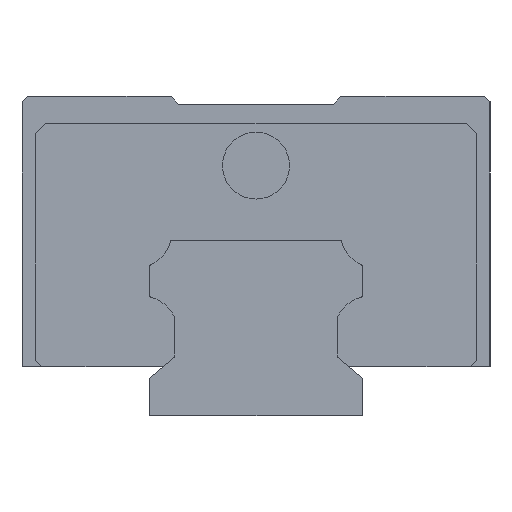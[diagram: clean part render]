
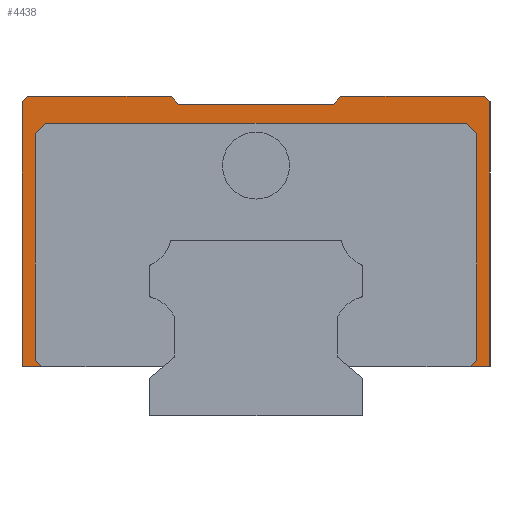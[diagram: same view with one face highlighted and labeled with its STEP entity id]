
A CAD part, left-side view. The second image highlights one B-rep face of the part: STEP entity #4438.
In plain terms, the highlighted planar face has unit normal (-1, 0, 0).
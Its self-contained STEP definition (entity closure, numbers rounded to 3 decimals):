
#20 = DIRECTION ( 'NONE',  ( 0., -1., 0. ) ) ;
#59 = CARTESIAN_POINT ( 'NONE',  ( -39., -20.75, 26.5 ) ) ;
#142 = ORIENTED_EDGE ( 'NONE', *, *, #423, .T. ) ;
#148 = VERTEX_POINT ( 'NONE', #5497 ) ;
#149 = EDGE_CURVE ( 'NONE', #3315, #2893, #5124, .T. ) ;
#164 = EDGE_CURVE ( 'NONE', #2859, #5265, #3223, .T. ) ;
#223 = ORIENTED_EDGE ( 'NONE', *, *, #164, .T. ) ;
#273 = CARTESIAN_POINT ( 'NONE',  ( -39., -20.75, 26.5 ) ) ;
#305 = EDGE_CURVE ( 'NONE', #2719, #5523, #4291, .T. ) ;
#315 = CARTESIAN_POINT ( 'NONE',  ( -39., 22., 29.5 ) ) ;
#323 = LINE ( 'NONE', #2189, #1444 ) ;
#368 = FACE_OUTER_BOUND ( 'NONE', #5209, .T. ) ;
#370 = VECTOR ( 'NONE', #2509, 1000. ) ;
#375 = LINE ( 'NONE', #1814, #4354 ) ;
#423 = EDGE_CURVE ( 'NONE', #5265, #4434, #4975, .T. ) ;
#443 = VERTEX_POINT ( 'NONE', #315 ) ;
#505 = EDGE_CURVE ( 'NONE', #5994, #3327, #3471, .T. ) ;
#568 = CARTESIAN_POINT ( 'NONE',  ( -39., 20.15, 4.6 ) ) ;
#645 = DIRECTION ( 'NONE',  ( 0., 0.707, -0.707 ) ) ;
#750 = LINE ( 'NONE', #5388, #3180 ) ;
#843 = DIRECTION ( 'NONE',  ( 0., 0., -1. ) ) ;
#864 = VERTEX_POINT ( 'NONE', #5772 ) ;
#946 = CARTESIAN_POINT ( 'NONE',  ( -39., 19.75, 27.5 ) ) ;
#996 = DIRECTION ( 'NONE',  ( 0., 1., 0. ) ) ;
#1004 = LINE ( 'NONE', #4282, #2162 ) ;
#1029 = VERTEX_POINT ( 'NONE', #59 ) ;
#1082 = CARTESIAN_POINT ( 'NONE',  ( -39., 20.75, 26.5 ) ) ;
#1163 = EDGE_CURVE ( 'NONE', #1029, #3984, #3556, .T. ) ;
#1301 = CARTESIAN_POINT ( 'NONE',  ( -39., -22., 30. ) ) ;
#1337 = EDGE_CURVE ( 'NONE', #148, #4434, #4237, .T. ) ;
#1361 = VECTOR ( 'NONE', #3900, 1000. ) ;
#1423 = VECTOR ( 'NONE', #5891, 1000. ) ;
#1434 = CARTESIAN_POINT ( 'NONE',  ( -39., 9., 4.6 ) ) ;
#1444 = VECTOR ( 'NONE', #5930, 1000. ) ;
#1448 = CARTESIAN_POINT ( 'NONE',  ( -39., 22., 30. ) ) ;
#1469 = ORIENTED_EDGE ( 'NONE', *, *, #149, .T. ) ;
#1491 = DIRECTION ( 'NONE',  ( 0., 1., 0. ) ) ;
#1516 = ORIENTED_EDGE ( 'NONE', *, *, #3728, .T. ) ;
#1517 = CARTESIAN_POINT ( 'NONE',  ( -39., -20.75, 5.2 ) ) ;
#1569 = EDGE_CURVE ( 'NONE', #3984, #2928, #323, .T. ) ;
#1738 = CARTESIAN_POINT ( 'NONE',  ( -39., -20.15, 4.6 ) ) ;
#1767 = EDGE_CURVE ( 'NONE', #148, #443, #4850, .T. ) ;
#1814 = CARTESIAN_POINT ( 'NONE',  ( -39., -7.963, 30. ) ) ;
#1854 = CARTESIAN_POINT ( 'NONE',  ( -39., 19.75, 27.5 ) ) ;
#1867 = DIRECTION ( 'NONE',  ( 0., 1., 0. ) ) ;
#1892 = CARTESIAN_POINT ( 'NONE',  ( -39., -19.75, 27.5 ) ) ;
#1970 = LINE ( 'NONE', #1448, #5979 ) ;
#2084 = ORIENTED_EDGE ( 'NONE', *, *, #5240, .F. ) ;
#2103 = CARTESIAN_POINT ( 'NONE',  ( -39., 22., 4.6 ) ) ;
#2126 = VECTOR ( 'NONE', #1867, 1000. ) ;
#2162 = VECTOR ( 'NONE', #6052, 1000. ) ;
#2183 = PLANE ( 'NONE',  #4017 ) ;
#2189 = CARTESIAN_POINT ( 'NONE',  ( -39., -20.75, 5.2 ) ) ;
#2235 = CARTESIAN_POINT ( 'NONE',  ( -39., -22., 30. ) ) ;
#2240 = DIRECTION ( 'NONE',  ( 0., 0.643, -0.766 ) ) ;
#2250 = EDGE_CURVE ( 'NONE', #5523, #443, #3030, .T. ) ;
#2274 = ORIENTED_EDGE ( 'NONE', *, *, #1767, .T. ) ;
#2280 = CARTESIAN_POINT ( 'NONE',  ( -39., -21.5, 30. ) ) ;
#2441 = ORIENTED_EDGE ( 'NONE', *, *, #5676, .T. ) ;
#2509 = DIRECTION ( 'NONE',  ( 0., 1., 0. ) ) ;
#2512 = LINE ( 'NONE', #4356, #3535 ) ;
#2530 = CARTESIAN_POINT ( 'NONE',  ( -39., -7.963, 30. ) ) ;
#2590 = EDGE_CURVE ( 'NONE', #4961, #5109, #1004, .T. ) ;
#2628 = VECTOR ( 'NONE', #645, 1000. ) ;
#2675 = ORIENTED_EDGE ( 'NONE', *, *, #305, .F. ) ;
#2719 = VERTEX_POINT ( 'NONE', #568 ) ;
#2757 = EDGE_CURVE ( 'NONE', #2719, #5994, #3870, .T. ) ;
#2859 = VERTEX_POINT ( 'NONE', #3540 ) ;
#2893 = VERTEX_POINT ( 'NONE', #1892 ) ;
#2897 = DIRECTION ( 'NONE',  ( 0., -1., 0. ) ) ;
#2923 = VECTOR ( 'NONE', #20, 1000. ) ;
#2928 = VERTEX_POINT ( 'NONE', #1738 ) ;
#2974 = DIRECTION ( 'NONE',  ( 0., -0.707, -0.707 ) ) ;
#2999 = EDGE_CURVE ( 'NONE', #3327, #3315, #750, .T. ) ;
#3004 = CARTESIAN_POINT ( 'NONE',  ( -39., 22., 4.6 ) ) ;
#3019 = CARTESIAN_POINT ( 'NONE',  ( -39., 20.75, 5.2 ) ) ;
#3030 = LINE ( 'NONE', #3004, #4366 ) ;
#3060 = CARTESIAN_POINT ( 'NONE',  ( -39., -22., 29.5 ) ) ;
#3172 = ORIENTED_EDGE ( 'NONE', *, *, #2250, .F. ) ;
#3180 = VECTOR ( 'NONE', #5507, 1000. ) ;
#3223 = LINE ( 'NONE', #5984, #2126 ) ;
#3301 = VECTOR ( 'NONE', #5076, 1000. ) ;
#3306 = ORIENTED_EDGE ( 'NONE', *, *, #2757, .T. ) ;
#3315 = VERTEX_POINT ( 'NONE', #1854 ) ;
#3327 = VERTEX_POINT ( 'NONE', #1082 ) ;
#3471 = LINE ( 'NONE', #5818, #5508 ) ;
#3535 = VECTOR ( 'NONE', #2974, 1000. ) ;
#3539 = ORIENTED_EDGE ( 'NONE', *, *, #1337, .F. ) ;
#3540 = CARTESIAN_POINT ( 'NONE',  ( -39., -7.333, 29.25 ) ) ;
#3556 = LINE ( 'NONE', #273, #5874 ) ;
#3649 = ORIENTED_EDGE ( 'NONE', *, *, #4182, .F. ) ;
#3728 = EDGE_CURVE ( 'NONE', #2893, #1029, #2512, .T. ) ;
#3762 = CARTESIAN_POINT ( 'NONE',  ( -39., -22., 4.6 ) ) ;
#3817 = LINE ( 'NONE', #3762, #5334 ) ;
#3843 = CARTESIAN_POINT ( 'NONE',  ( -39., 7.333, 29.25 ) ) ;
#3870 = LINE ( 'NONE', #5744, #1361 ) ;
#3900 = DIRECTION ( 'NONE',  ( 0., 0.707, 0.707 ) ) ;
#3912 = CARTESIAN_POINT ( 'NONE',  ( -39., 7.333, 29.25 ) ) ;
#3938 = DIRECTION ( 'NONE',  ( 0., 0., -1. ) ) ;
#3984 = VERTEX_POINT ( 'NONE', #1517 ) ;
#4017 = AXIS2_PLACEMENT_3D ( 'NONE', #2235, #4042, #996 ) ;
#4018 = ORIENTED_EDGE ( 'NONE', *, *, #505, .T. ) ;
#4042 = DIRECTION ( 'NONE',  ( 1., 0., 0. ) ) ;
#4152 = EDGE_CURVE ( 'NONE', #4961, #864, #4700, .T. ) ;
#4182 = EDGE_CURVE ( 'NONE', #5487, #5109, #1970, .T. ) ;
#4205 = VECTOR ( 'NONE', #843, 1000. ) ;
#4237 = LINE ( 'NONE', #5560, #2923 ) ;
#4282 = CARTESIAN_POINT ( 'NONE',  ( -39., -22., 29.5 ) ) ;
#4291 = LINE ( 'NONE', #1434, #370 ) ;
#4354 = VECTOR ( 'NONE', #2240, 1000. ) ;
#4356 = CARTESIAN_POINT ( 'NONE',  ( -39., -19.75, 27.5 ) ) ;
#4366 = VECTOR ( 'NONE', #4873, 1000. ) ;
#4434 = VERTEX_POINT ( 'NONE', #4572 ) ;
#4438 = ADVANCED_FACE ( 'NONE', ( #368 ), #2183, .F. ) ;
#4572 = CARTESIAN_POINT ( 'NONE',  ( -39., 7.963, 30. ) ) ;
#4663 = ORIENTED_EDGE ( 'NONE', *, *, #1163, .T. ) ;
#4700 = LINE ( 'NONE', #1301, #4205 ) ;
#4850 = LINE ( 'NONE', #5758, #2628 ) ;
#4854 = ORIENTED_EDGE ( 'NONE', *, *, #2590, .T. ) ;
#4873 = DIRECTION ( 'NONE',  ( 0., 0., 1. ) ) ;
#4961 = VERTEX_POINT ( 'NONE', #3060 ) ;
#4975 = LINE ( 'NONE', #3912, #1423 ) ;
#5076 = DIRECTION ( 'NONE',  ( 0., -1., 0. ) ) ;
#5087 = ORIENTED_EDGE ( 'NONE', *, *, #1569, .T. ) ;
#5109 = VERTEX_POINT ( 'NONE', #2280 ) ;
#5124 = LINE ( 'NONE', #946, #3301 ) ;
#5209 = EDGE_LOOP ( 'NONE', ( #4663, #5087, #2084, #5280, #4854, #3649, #2441, #223, #142, #3539, #2274, #3172, #2675, #3306, #4018, #5864, #1469, #1516 ) ) ;
#5240 = EDGE_CURVE ( 'NONE', #864, #2928, #3817, .T. ) ;
#5265 = VERTEX_POINT ( 'NONE', #3843 ) ;
#5280 = ORIENTED_EDGE ( 'NONE', *, *, #4152, .F. ) ;
#5334 = VECTOR ( 'NONE', #1491, 1000. ) ;
#5388 = CARTESIAN_POINT ( 'NONE',  ( -39., 20.75, 26.5 ) ) ;
#5487 = VERTEX_POINT ( 'NONE', #2530 ) ;
#5497 = CARTESIAN_POINT ( 'NONE',  ( -39., 21.5, 30. ) ) ;
#5507 = DIRECTION ( 'NONE',  ( 0., -0.707, 0.707 ) ) ;
#5508 = VECTOR ( 'NONE', #5917, 1000. ) ;
#5523 = VERTEX_POINT ( 'NONE', #2103 ) ;
#5560 = CARTESIAN_POINT ( 'NONE',  ( -39., 22., 30. ) ) ;
#5676 = EDGE_CURVE ( 'NONE', #5487, #2859, #375, .T. ) ;
#5744 = CARTESIAN_POINT ( 'NONE',  ( -39., 20.15, 4.6 ) ) ;
#5758 = CARTESIAN_POINT ( 'NONE',  ( -39., 21.5, 30. ) ) ;
#5772 = CARTESIAN_POINT ( 'NONE',  ( -39., -22., 4.6 ) ) ;
#5818 = CARTESIAN_POINT ( 'NONE',  ( -39., 20.75, 5.2 ) ) ;
#5864 = ORIENTED_EDGE ( 'NONE', *, *, #2999, .T. ) ;
#5874 = VECTOR ( 'NONE', #3938, 1000. ) ;
#5891 = DIRECTION ( 'NONE',  ( 0., 0.643, 0.766 ) ) ;
#5917 = DIRECTION ( 'NONE',  ( 0., 0., 1. ) ) ;
#5930 = DIRECTION ( 'NONE',  ( 0., 0.707, -0.707 ) ) ;
#5979 = VECTOR ( 'NONE', #2897, 1000. ) ;
#5984 = CARTESIAN_POINT ( 'NONE',  ( -39., -7.333, 29.25 ) ) ;
#5994 = VERTEX_POINT ( 'NONE', #3019 ) ;
#6052 = DIRECTION ( 'NONE',  ( 0., 0.707, 0.707 ) ) ;
